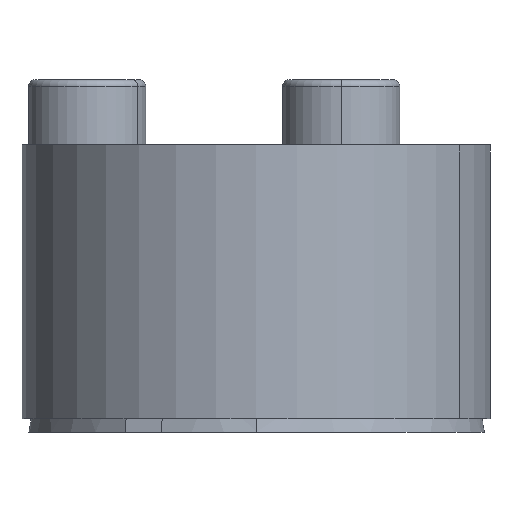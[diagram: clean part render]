
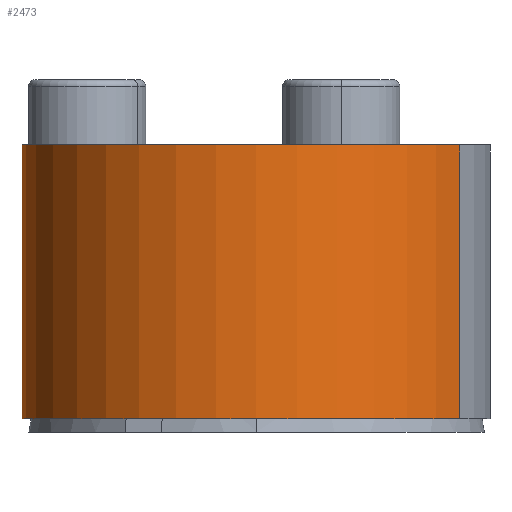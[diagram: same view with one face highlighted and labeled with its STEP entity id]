
A CAD part, left-side view. The second image highlights one B-rep face of the part: STEP entity #2473.
In plain terms, the highlighted cylindrical face has radius 9 mm (diameter 18 mm), a partial arc.
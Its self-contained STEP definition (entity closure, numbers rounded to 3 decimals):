
#163 = EDGE_CURVE ( 'NONE', #4273, #1744, #2312, .T. ) ;
#182 = AXIS2_PLACEMENT_3D ( 'NONE', #4103, #4063, #3968 ) ;
#212 = CYLINDRICAL_SURFACE ( 'NONE', #889, 9. ) ;
#228 = ORIENTED_EDGE ( 'NONE', *, *, #4990, .T. ) ;
#600 = DIRECTION ( 'NONE',  ( 0., 0., 1. ) ) ;
#889 = AXIS2_PLACEMENT_3D ( 'NONE', #5432, #2285, #1406 ) ;
#1117 = VECTOR ( 'NONE', #2145, 1000. ) ;
#1152 = CIRCLE ( 'NONE', #182, 9. ) ;
#1190 = EDGE_CURVE ( 'NONE', #4273, #1415, #1152, .T. ) ;
#1406 = DIRECTION ( 'NONE',  ( -0.5, -0.866, 0. ) ) ;
#1415 = VERTEX_POINT ( 'NONE', #4333 ) ;
#1573 = AXIS2_PLACEMENT_3D ( 'NONE', #2422, #5569, #2874 ) ;
#1744 = VERTEX_POINT ( 'NONE', #4348 ) ;
#1784 = CARTESIAN_POINT ( 'NONE',  ( -4.5, -7.794, 0.523 ) ) ;
#1831 = FACE_OUTER_BOUND ( 'NONE', #2170, .T. ) ;
#2145 = DIRECTION ( 'NONE',  ( 0., 0., 1. ) ) ;
#2170 = EDGE_LOOP ( 'NONE', ( #5332, #2784, #4409, #228 ) ) ;
#2285 = DIRECTION ( 'NONE',  ( 0., 0., 1. ) ) ;
#2312 = LINE ( 'NONE', #1784, #1117 ) ;
#2422 = CARTESIAN_POINT ( 'NONE',  ( 0., 0., 11.023 ) ) ;
#2473 = ADVANCED_FACE ( 'NONE', ( #1831 ), #212, .T. ) ;
#2643 = VERTEX_POINT ( 'NONE', #5564 ) ;
#2784 = ORIENTED_EDGE ( 'NONE', *, *, #1190, .F. ) ;
#2874 = DIRECTION ( 'NONE',  ( 0.5, 0.866, 0. ) ) ;
#3146 = VECTOR ( 'NONE', #600, 1000. ) ;
#3269 = LINE ( 'NONE', #4639, #3146 ) ;
#3333 = CARTESIAN_POINT ( 'NONE',  ( -4.5, -7.794, 0.523 ) ) ;
#3531 = CIRCLE ( 'NONE', #1573, 9. ) ;
#3968 = DIRECTION ( 'NONE',  ( 0.5, 0.866, 0. ) ) ;
#4063 = DIRECTION ( 'NONE',  ( 0., 0., -1. ) ) ;
#4103 = CARTESIAN_POINT ( 'NONE',  ( 0., 0., 0.523 ) ) ;
#4230 = EDGE_CURVE ( 'NONE', #1415, #2643, #3269, .T. ) ;
#4273 = VERTEX_POINT ( 'NONE', #3333 ) ;
#4333 = CARTESIAN_POINT ( 'NONE',  ( 4.5, 7.794, 0.523 ) ) ;
#4348 = CARTESIAN_POINT ( 'NONE',  ( -4.5, -7.794, 11.023 ) ) ;
#4409 = ORIENTED_EDGE ( 'NONE', *, *, #163, .T. ) ;
#4639 = CARTESIAN_POINT ( 'NONE',  ( 4.5, 7.794, 0.523 ) ) ;
#4990 = EDGE_CURVE ( 'NONE', #1744, #2643, #3531, .T. ) ;
#5332 = ORIENTED_EDGE ( 'NONE', *, *, #4230, .F. ) ;
#5432 = CARTESIAN_POINT ( 'NONE',  ( 0., 0., 0.523 ) ) ;
#5564 = CARTESIAN_POINT ( 'NONE',  ( 4.5, 7.794, 11.023 ) ) ;
#5569 = DIRECTION ( 'NONE',  ( 0., 0., -1. ) ) ;
